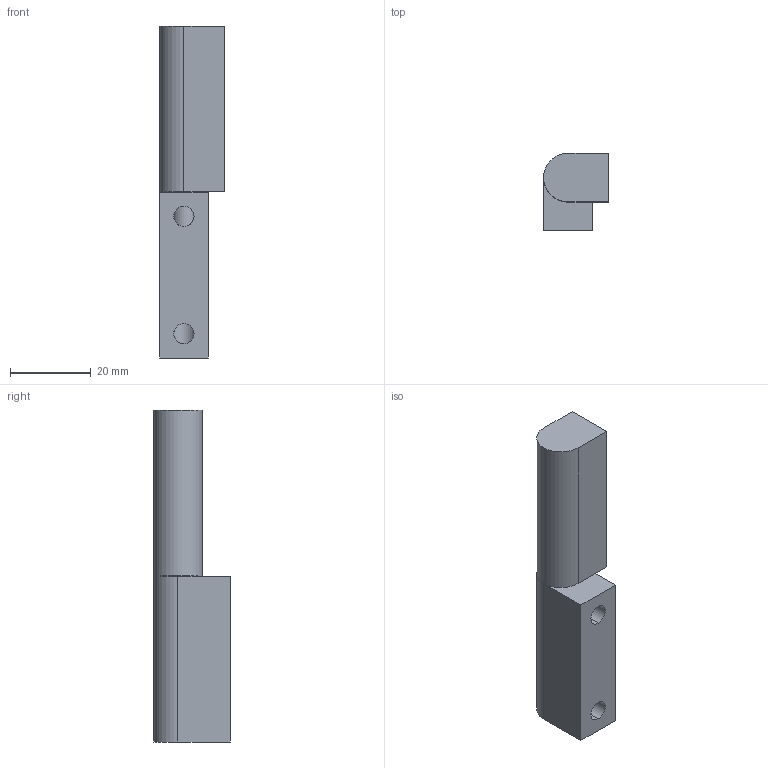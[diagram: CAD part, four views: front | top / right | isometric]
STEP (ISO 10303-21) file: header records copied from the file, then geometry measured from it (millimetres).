
FILE_DESCRIPTION (( 'STEP AP203' ), '1' );
FILE_NAME ('XG02-029-2.STEP', '2023-12-07T03:29:47', ( '' ), ( '' ), 'SwSTEP 2.0', 'SolidWorks 2020', '' );
FILE_SCHEMA (( 'CONFIG_CONTROL_DESIGN' ));
Length unit declared in the file: millimetre
Products named in the file (4): HL009-3B; HL009-3B种赽; HL009-3B- a; XG02-029-2
Assembly tree (3 placements, depth 2):
  XG02-029-2
    HL009-3B- a
    HL009-3B种赽
    HL009-3B
Bounding box: 16 x 19 x 82 mm (x, y, z)
Volume: 13974.4 mm3; surface area: 7819.9 mm2
Topology: 3 solids, 3 shells, 48 faces, 106 edges, 64 vertices
Faces by surface type: cylinder 20, cone 16, plane 12
Entity records: 2024 total; most frequent: CARTESIAN_POINT 588, DIRECTION 218, ORIENTED_EDGE 196, EDGE_CURVE 98, AXIS2_PLACEMENT_3D 86, VERTEX_POINT 64, EDGE_LOOP 64, ADVANCED_FACE 48
